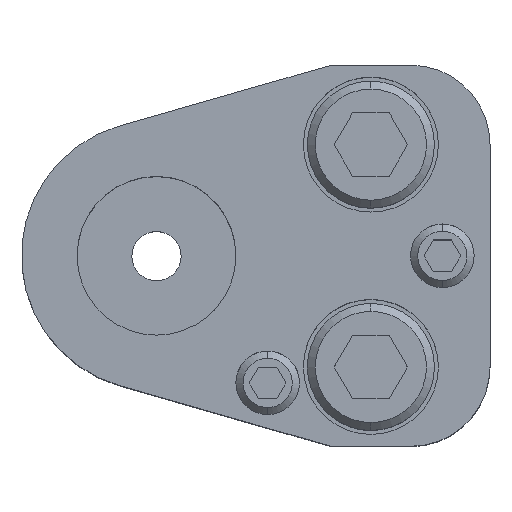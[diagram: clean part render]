
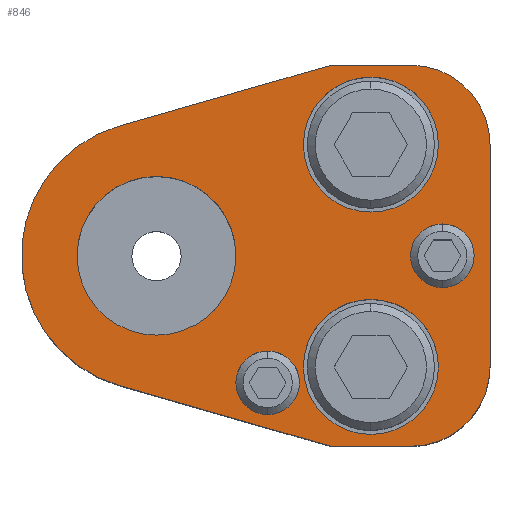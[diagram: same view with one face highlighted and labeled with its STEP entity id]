
A CAD part, top view. The second image highlights one B-rep face of the part: STEP entity #846.
In plain terms, the highlighted planar face has unit normal (0, 0, 1).
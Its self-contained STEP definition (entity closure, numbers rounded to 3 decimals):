
#461=LINE('',#4196,#659);
#466=LINE('',#4211,#664);
#470=LINE('',#4223,#668);
#475=LINE('',#4232,#673);
#480=LINE('',#4246,#678);
#659=VECTOR('',#3371,1.);
#664=VECTOR('',#3384,1.);
#668=VECTOR('',#3396,1.);
#673=VECTOR('',#3403,1.);
#678=VECTOR('',#3416,1.);
#846=ADVANCED_FACE('',(#979,#980,#981,#982,#983,#984),#943,.T.);
#943=PLANE('',#2837);
#979=FACE_BOUND('',#1131,.T.);
#980=FACE_BOUND('',#1132,.T.);
#981=FACE_BOUND('',#1133,.T.);
#982=FACE_BOUND('',#1134,.T.);
#983=FACE_BOUND('',#1135,.T.);
#984=FACE_BOUND('',#1136,.T.);
#1131=EDGE_LOOP('',(#1676,#1677,#1678,#1679,#1680,#1681,#1682,#1683));
#1132=EDGE_LOOP('',(#1684,#1685));
#1133=EDGE_LOOP('',(#1686,#1687));
#1134=EDGE_LOOP('',(#1688,#1689));
#1135=EDGE_LOOP('',(#1690,#1691));
#1136=EDGE_LOOP('',(#1692,#1693));
#1676=ORIENTED_EDGE('',*,*,#2340,.T.);
#1677=ORIENTED_EDGE('',*,*,#2322,.T.);
#1678=ORIENTED_EDGE('',*,*,#2326,.T.);
#1679=ORIENTED_EDGE('',*,*,#2329,.T.);
#1680=ORIENTED_EDGE('',*,*,#2332,.T.);
#1681=ORIENTED_EDGE('',*,*,#2335,.T.);
#1682=ORIENTED_EDGE('',*,*,#2347,.T.);
#1683=ORIENTED_EDGE('',*,*,#2343,.T.);
#1684=ORIENTED_EDGE('',*,*,#2382,.F.);
#1685=ORIENTED_EDGE('',*,*,#2383,.F.);
#1686=ORIENTED_EDGE('',*,*,#2384,.F.);
#1687=ORIENTED_EDGE('',*,*,#2385,.F.);
#1688=ORIENTED_EDGE('',*,*,#2372,.F.);
#1689=ORIENTED_EDGE('',*,*,#2368,.F.);
#1690=ORIENTED_EDGE('',*,*,#2366,.F.);
#1691=ORIENTED_EDGE('',*,*,#2362,.F.);
#1692=ORIENTED_EDGE('',*,*,#2386,.T.);
#1693=ORIENTED_EDGE('',*,*,#2387,.T.);
#2023=VERTEX_POINT('',#4195);
#2024=VERTEX_POINT('',#4197);
#2027=VERTEX_POINT('',#4204);
#2029=VERTEX_POINT('',#4210);
#2031=VERTEX_POINT('',#4216);
#2033=VERTEX_POINT('',#4222);
#2037=VERTEX_POINT('',#4233);
#2039=VERTEX_POINT('',#4239);
#2053=VERTEX_POINT('',#4281);
#2054=VERTEX_POINT('',#4282);
#2057=VERTEX_POINT('',#4293);
#2058=VERTEX_POINT('',#4294);
#2065=VERTEX_POINT('',#4321);
#2066=VERTEX_POINT('',#4322);
#2067=VERTEX_POINT('',#4325);
#2068=VERTEX_POINT('',#4326);
#2069=VERTEX_POINT('',#4329);
#2070=VERTEX_POINT('',#4330);
#2322=EDGE_CURVE('',#2024,#2023,#461,.T.);
#2326=EDGE_CURVE('',#2023,#2027,#2547,.T.);
#2329=EDGE_CURVE('',#2027,#2029,#466,.T.);
#2332=EDGE_CURVE('',#2029,#2031,#2549,.T.);
#2335=EDGE_CURVE('',#2031,#2033,#470,.T.);
#2340=EDGE_CURVE('',#2037,#2024,#475,.T.);
#2343=EDGE_CURVE('',#2039,#2037,#2552,.T.);
#2347=EDGE_CURVE('',#2033,#2039,#480,.T.);
#2362=EDGE_CURVE('',#2053,#2054,#2561,.T.);
#2366=EDGE_CURVE('',#2054,#2053,#2563,.T.);
#2368=EDGE_CURVE('',#2057,#2058,#2565,.T.);
#2372=EDGE_CURVE('',#2058,#2057,#2567,.T.);
#2382=EDGE_CURVE('',#2065,#2066,#2573,.T.);
#2383=EDGE_CURVE('',#2066,#2065,#2574,.T.);
#2384=EDGE_CURVE('',#2067,#2068,#2575,.T.);
#2385=EDGE_CURVE('',#2068,#2067,#2576,.T.);
#2386=EDGE_CURVE('',#2069,#2070,#2577,.T.);
#2387=EDGE_CURVE('',#2070,#2069,#2578,.T.);
#2547=CIRCLE('',#2788,10.);
#2549=CIRCLE('',#2792,10.);
#2552=CIRCLE('',#2798,17.);
#2561=CIRCLE('',#2811,4.);
#2563=CIRCLE('',#2814,4.);
#2565=CIRCLE('',#2817,4.);
#2567=CIRCLE('',#2820,4.);
#2573=CIRCLE('',#2831,8.5);
#2574=CIRCLE('',#2832,8.5);
#2575=CIRCLE('',#2833,8.5);
#2576=CIRCLE('',#2834,8.5);
#2577=CIRCLE('',#2835,10.);
#2578=CIRCLE('',#2836,10.);
#2788=AXIS2_PLACEMENT_3D('',#4205,#3377,#3378);
#2792=AXIS2_PLACEMENT_3D('',#4217,#3389,#3390);
#2798=AXIS2_PLACEMENT_3D('',#4238,#3409,#3410);
#2811=AXIS2_PLACEMENT_3D('',#4280,#3444,#3445);
#2814=AXIS2_PLACEMENT_3D('',#4289,#3452,#3453);
#2817=AXIS2_PLACEMENT_3D('',#4292,#3458,#3459);
#2820=AXIS2_PLACEMENT_3D('',#4301,#3466,#3467);
#2831=AXIS2_PLACEMENT_3D('',#4320,#3492,#3493);
#2832=AXIS2_PLACEMENT_3D('',#4323,#3494,#3495);
#2833=AXIS2_PLACEMENT_3D('',#4324,#3496,#3497);
#2834=AXIS2_PLACEMENT_3D('',#4327,#3498,#3499);
#2835=AXIS2_PLACEMENT_3D('',#4328,#3500,#3501);
#2836=AXIS2_PLACEMENT_3D('',#4331,#3502,#3503);
#2837=AXIS2_PLACEMENT_3D('',#4332,#3504,#3505);
#3371=DIRECTION('',(1.,0.,0.));
#3377=DIRECTION('',(0.,0.,1.));
#3378=DIRECTION('',(-0.707,0.707,0.));
#3384=DIRECTION('',(0.,1.,0.));
#3389=DIRECTION('',(0.,0.,1.));
#3390=DIRECTION('',(-0.707,-0.707,0.));
#3396=DIRECTION('',(-1.,0.,0.));
#3403=DIRECTION('',(0.961,-0.276,0.));
#3409=DIRECTION('',(0.,0.,1.));
#3410=DIRECTION('',(1.,0.,0.));
#3416=DIRECTION('',(-0.961,-0.276,0.));
#3444=DIRECTION('',(0.,0.,1.));
#3445=DIRECTION('',(-1.,0.,0.));
#3452=DIRECTION('',(0.,0.,1.));
#3453=DIRECTION('',(1.,0.,0.));
#3458=DIRECTION('',(0.,0.,1.));
#3459=DIRECTION('',(-1.,0.,0.));
#3466=DIRECTION('',(0.,0.,1.));
#3467=DIRECTION('',(1.,0.,0.));
#3492=DIRECTION('',(0.,0.,1.));
#3493=DIRECTION('',(1.,0.,0.));
#3494=DIRECTION('',(0.,0.,1.));
#3495=DIRECTION('',(-1.,0.,0.));
#3496=DIRECTION('',(0.,0.,1.));
#3497=DIRECTION('',(1.,0.,0.));
#3498=DIRECTION('',(0.,0.,1.));
#3499=DIRECTION('',(-1.,0.,0.));
#3500=DIRECTION('',(0.,0.,-1.));
#3501=DIRECTION('',(-1.,0.,0.));
#3502=DIRECTION('',(0.,0.,-1.));
#3503=DIRECTION('',(1.,0.,0.));
#3504=DIRECTION('',(0.,0.,1.));
#3505=DIRECTION('',(0.961,-0.276,0.));
#4195=CARTESIAN_POINT('',(32.,-24.,35.));
#4196=CARTESIAN_POINT('',(22.,-24.,35.));
#4197=CARTESIAN_POINT('',(22.,-24.,35.));
#4204=CARTESIAN_POINT('',(42.,-14.,35.));
#4205=CARTESIAN_POINT('',(32.,-14.,35.));
#4210=CARTESIAN_POINT('',(42.,14.,35.));
#4211=CARTESIAN_POINT('',(42.,14.,35.));
#4216=CARTESIAN_POINT('',(32.,24.,35.));
#4217=CARTESIAN_POINT('',(32.,14.,35.));
#4222=CARTESIAN_POINT('',(22.,24.,35.));
#4223=CARTESIAN_POINT('',(22.,24.,35.));
#4232=CARTESIAN_POINT('',(22.,-24.,35.));
#4233=CARTESIAN_POINT('',(-4.69,-16.34,35.));
#4238=CARTESIAN_POINT('',(0.,0.,35.));
#4239=CARTESIAN_POINT('',(-4.69,16.34,35.));
#4246=CARTESIAN_POINT('',(22.,24.,35.));
#4280=CARTESIAN_POINT('',(14.,-16.,35.));
#4281=CARTESIAN_POINT('',(14.,-20.,35.));
#4282=CARTESIAN_POINT('',(14.,-12.,35.));
#4289=CARTESIAN_POINT('',(14.,-16.,35.));
#4292=CARTESIAN_POINT('',(36.,0.,35.));
#4293=CARTESIAN_POINT('',(36.,-4.,35.));
#4294=CARTESIAN_POINT('',(36.,4.,35.));
#4301=CARTESIAN_POINT('',(36.,0.,35.));
#4320=CARTESIAN_POINT('',(27.,14.,35.));
#4321=CARTESIAN_POINT('',(27.,22.5,35.));
#4322=CARTESIAN_POINT('',(27.,5.5,35.));
#4323=CARTESIAN_POINT('',(27.,14.,35.));
#4324=CARTESIAN_POINT('',(27.,-14.,35.));
#4325=CARTESIAN_POINT('',(27.,-5.5,35.));
#4326=CARTESIAN_POINT('',(27.,-22.5,35.));
#4327=CARTESIAN_POINT('',(27.,-14.,35.));
#4328=CARTESIAN_POINT('',(0.,0.,35.));
#4329=CARTESIAN_POINT('',(0.,10.,35.));
#4330=CARTESIAN_POINT('',(0.,-10.,35.));
#4331=CARTESIAN_POINT('',(0.,0.,35.));
#4332=CARTESIAN_POINT('',(-4.69,-16.34,35.));
